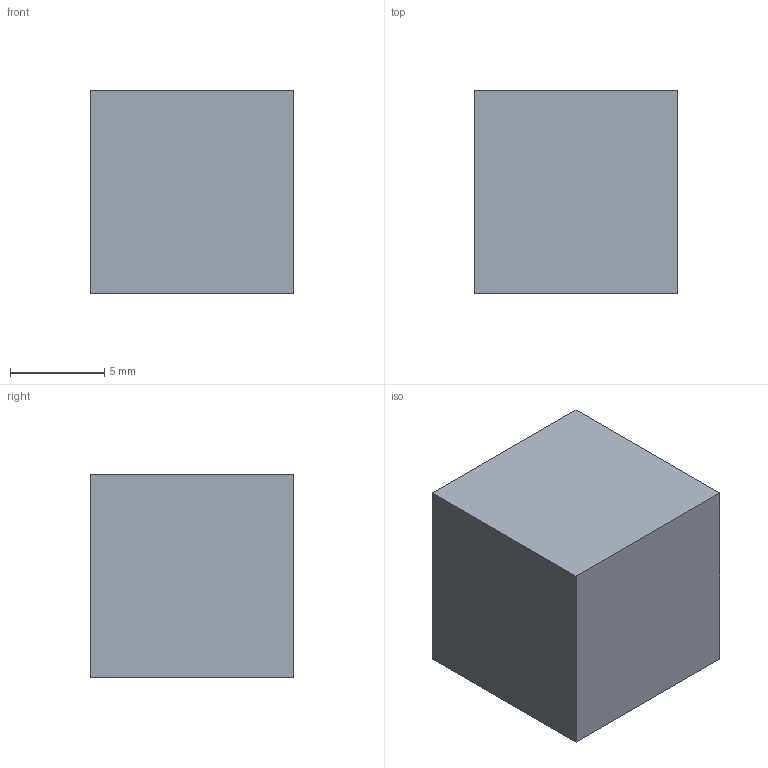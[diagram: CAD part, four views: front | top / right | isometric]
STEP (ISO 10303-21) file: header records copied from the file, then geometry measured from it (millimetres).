
FILE_DESCRIPTION(/* description */ (''),/* implementation_level */ '2;1');
FILE_NAME(/* name */ 'D:\~~GatCad\BWA - Ammo\BWA-Ammo V1.0\STEP\Powder Measure-READ THE README.stp',/* time_stamp */ '2020-06-15T08:59:16-05:00',/* author */ ('johne'),/* organization */ (''),/* preprocessor_version */ 'ST-DEVELOPER v18',/* originating_system */ 'Autodesk Inventor 2020',/* authorisation */ '');
FILE_SCHEMA (('AUTOMOTIVE_DESIGN { 1 0 10303 214 3 1 1 }'));
Length unit declared in the file: inch
Products named in the file (1): powder measure
Bounding box: 10.8 x 10.8 x 10.8 mm (x, y, z)
Volume: 939.9 mm3; surface area: 858.1 mm2
Topology: 1 solids, 1 shells, 46 faces, 120 edges, 80 vertices
Faces by surface type: plane 34, bspline 12
Entity records: 1534 total; most frequent: CARTESIAN_POINT 438, ORIENTED_EDGE 240, DIRECTION 166, EDGE_CURVE 120, LINE 96, VECTOR 96, VERTEX_POINT 80, EDGE_LOOP 50
